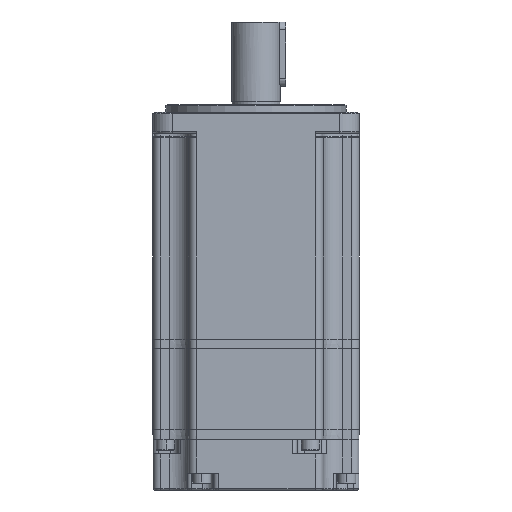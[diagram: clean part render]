
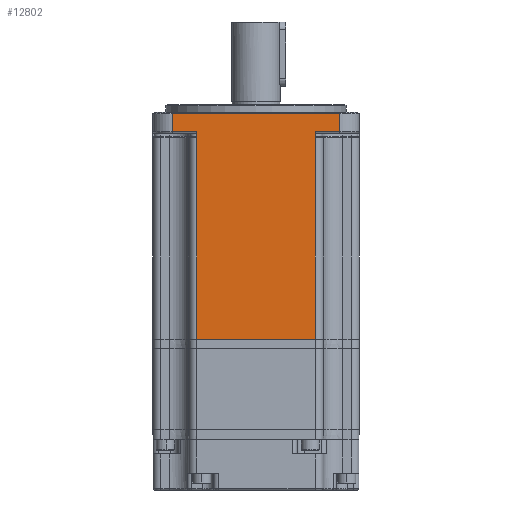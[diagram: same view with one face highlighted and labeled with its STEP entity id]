
A CAD part, left-side view. The second image highlights one B-rep face of the part: STEP entity #12802.
In plain terms, the highlighted planar face has unit normal (-1, 0, 0) as drawn and (0, 1, 0) by its records, which use the part's own axes.
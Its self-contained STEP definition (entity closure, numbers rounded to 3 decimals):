
#1946 = LINE ( 'NONE', #70599, #33212 ) ;
#3866 = DIRECTION ( 'NONE',  ( 0., 0., 1. ) ) ;
#4310 = CARTESIAN_POINT ( 'NONE',  ( -32.5, 40., 72.5 ) ) ;
#4942 = CARTESIAN_POINT ( 'NONE',  ( 23.05, 40., -15. ) ) ;
#6194 = VECTOR ( 'NONE', #60876, 1000. ) ;
#6496 = LINE ( 'NONE', #54499, #124884 ) ;
#7457 = VECTOR ( 'NONE', #74137, 1000. ) ;
#7690 = LINE ( 'NONE', #17673, #39861 ) ;
#8314 = EDGE_CURVE ( 'NONE', #123816, #43149, #21200, .T. ) ;
#9014 = LINE ( 'NONE', #89036, #102993 ) ;
#10255 = CARTESIAN_POINT ( 'NONE',  ( 23.05, 40., 65. ) ) ;
#11262 = CARTESIAN_POINT ( 'NONE',  ( 32.5, 40., 72.5 ) ) ;
#12802 = ADVANCED_FACE ( 'NONE', ( #113785 ), #63065, .F. ) ;
#13814 = CARTESIAN_POINT ( 'NONE',  ( 23.05, 40., 65.4 ) ) ;
#16941 = ORIENTED_EDGE ( 'NONE', *, *, #67046, .T. ) ;
#17673 = CARTESIAN_POINT ( 'NONE',  ( -32.5, 40., 65. ) ) ;
#17949 = AXIS2_PLACEMENT_3D ( 'NONE', #93793, #124437, #104476 ) ;
#18346 = DIRECTION ( 'NONE',  ( -1., 0., 0. ) ) ;
#20083 = ORIENTED_EDGE ( 'NONE', *, *, #69939, .F. ) ;
#20691 = VERTEX_POINT ( 'NONE', #43650 ) ;
#21200 = LINE ( 'NONE', #42481, #25866 ) ;
#21864 = DIRECTION ( 'NONE',  ( 1., 0., 0. ) ) ;
#23496 = CARTESIAN_POINT ( 'NONE',  ( 32.5, 40., 65. ) ) ;
#25398 = EDGE_CURVE ( 'NONE', #129889, #30963, #9014, .T. ) ;
#25579 = VERTEX_POINT ( 'NONE', #4942 ) ;
#25866 = VECTOR ( 'NONE', #31198, 1000. ) ;
#27093 = VERTEX_POINT ( 'NONE', #60001 ) ;
#27193 = CARTESIAN_POINT ( 'NONE',  ( -23.05, 40., 65. ) ) ;
#27904 = ORIENTED_EDGE ( 'NONE', *, *, #44629, .T. ) ;
#30963 = VERTEX_POINT ( 'NONE', #13814 ) ;
#30982 = ORIENTED_EDGE ( 'NONE', *, *, #51185, .T. ) ;
#31061 = CARTESIAN_POINT ( 'NONE',  ( -32.5, 40., 65.4 ) ) ;
#31198 = DIRECTION ( 'NONE',  ( -1., 0., 0. ) ) ;
#31872 = CARTESIAN_POINT ( 'NONE',  ( 32.5, 40., 72.5 ) ) ;
#33212 = VECTOR ( 'NONE', #101988, 1000. ) ;
#35589 = VERTEX_POINT ( 'NONE', #11262 ) ;
#36656 = EDGE_CURVE ( 'NONE', #55418, #25579, #1946, .T. ) ;
#39861 = VECTOR ( 'NONE', #68959, 1000. ) ;
#41168 = LINE ( 'NONE', #31872, #102493 ) ;
#42481 = CARTESIAN_POINT ( 'NONE',  ( -32.5, 40., 65.4 ) ) ;
#43149 = VERTEX_POINT ( 'NONE', #31061 ) ;
#43650 = CARTESIAN_POINT ( 'NONE',  ( -23.05, 40., -15. ) ) ;
#44629 = EDGE_CURVE ( 'NONE', #27093, #123816, #99188, .T. ) ;
#44729 = ORIENTED_EDGE ( 'NONE', *, *, #36656, .T. ) ;
#46260 = ORIENTED_EDGE ( 'NONE', *, *, #112737, .T. ) ;
#47100 = CARTESIAN_POINT ( 'NONE',  ( -23.05, 40., -15. ) ) ;
#49763 = ORIENTED_EDGE ( 'NONE', *, *, #114799, .T. ) ;
#50684 = ORIENTED_EDGE ( 'NONE', *, *, #25398, .T. ) ;
#51185 = EDGE_CURVE ( 'NONE', #43149, #107273, #7690, .T. ) ;
#54499 = CARTESIAN_POINT ( 'NONE',  ( -23.05, 40., 65. ) ) ;
#55418 = VERTEX_POINT ( 'NONE', #115177 ) ;
#56443 = DIRECTION ( 'NONE',  ( 1., 0., 0. ) ) ;
#57100 = LINE ( 'NONE', #47100, #62545 ) ;
#60001 = CARTESIAN_POINT ( 'NONE',  ( -23.05, 40., 63.1 ) ) ;
#60133 = VECTOR ( 'NONE', #110496, 1000. ) ;
#60876 = DIRECTION ( 'NONE',  ( 0., 0., -1. ) ) ;
#61550 = LINE ( 'NONE', #10255, #6194 ) ;
#62545 = VECTOR ( 'NONE', #56443, 1000. ) ;
#63065 = PLANE ( 'NONE',  #17949 ) ;
#63381 = CARTESIAN_POINT ( 'NONE',  ( 32.5, 40., 65.4 ) ) ;
#67046 = EDGE_CURVE ( 'NONE', #107273, #35589, #41168, .T. ) ;
#68959 = DIRECTION ( 'NONE',  ( 0., 0., 1. ) ) ;
#69051 = CARTESIAN_POINT ( 'NONE',  ( -23.05, 40., 65.4 ) ) ;
#69939 = EDGE_CURVE ( 'NONE', #20691, #25579, #57100, .T. ) ;
#70599 = CARTESIAN_POINT ( 'NONE',  ( 23.05, 40., 65. ) ) ;
#72152 = LINE ( 'NONE', #23496, #7457 ) ;
#74137 = DIRECTION ( 'NONE',  ( 0., 0., -1. ) ) ;
#89036 = CARTESIAN_POINT ( 'NONE',  ( 23.05, 40., 65.4 ) ) ;
#93793 = CARTESIAN_POINT ( 'NONE',  ( 40., 40., 65. ) ) ;
#99188 = LINE ( 'NONE', #27193, #60133 ) ;
#101988 = DIRECTION ( 'NONE',  ( 0., 0., -1. ) ) ;
#102493 = VECTOR ( 'NONE', #21864, 1000. ) ;
#102993 = VECTOR ( 'NONE', #18346, 1000. ) ;
#104205 = ORIENTED_EDGE ( 'NONE', *, *, #8314, .T. ) ;
#104476 = DIRECTION ( 'NONE',  ( 1., 0., 0. ) ) ;
#107273 = VERTEX_POINT ( 'NONE', #4310 ) ;
#110496 = DIRECTION ( 'NONE',  ( 0., 0., 1. ) ) ;
#112737 = EDGE_CURVE ( 'NONE', #35589, #129889, #72152, .T. ) ;
#113785 = FACE_OUTER_BOUND ( 'NONE', #117928, .T. ) ;
#114799 = EDGE_CURVE ( 'NONE', #20691, #27093, #6496, .T. ) ;
#115177 = CARTESIAN_POINT ( 'NONE',  ( 23.05, 40., 63.1 ) ) ;
#116624 = ORIENTED_EDGE ( 'NONE', *, *, #127966, .T. ) ;
#117928 = EDGE_LOOP ( 'NONE', ( #27904, #104205, #30982, #16941, #46260, #50684, #116624, #44729, #20083, #49763 ) ) ;
#123816 = VERTEX_POINT ( 'NONE', #69051 ) ;
#124437 = DIRECTION ( 'NONE',  ( 0., -1., 0. ) ) ;
#124884 = VECTOR ( 'NONE', #3866, 1000. ) ;
#127966 = EDGE_CURVE ( 'NONE', #30963, #55418, #61550, .T. ) ;
#129889 = VERTEX_POINT ( 'NONE', #63381 ) ;
